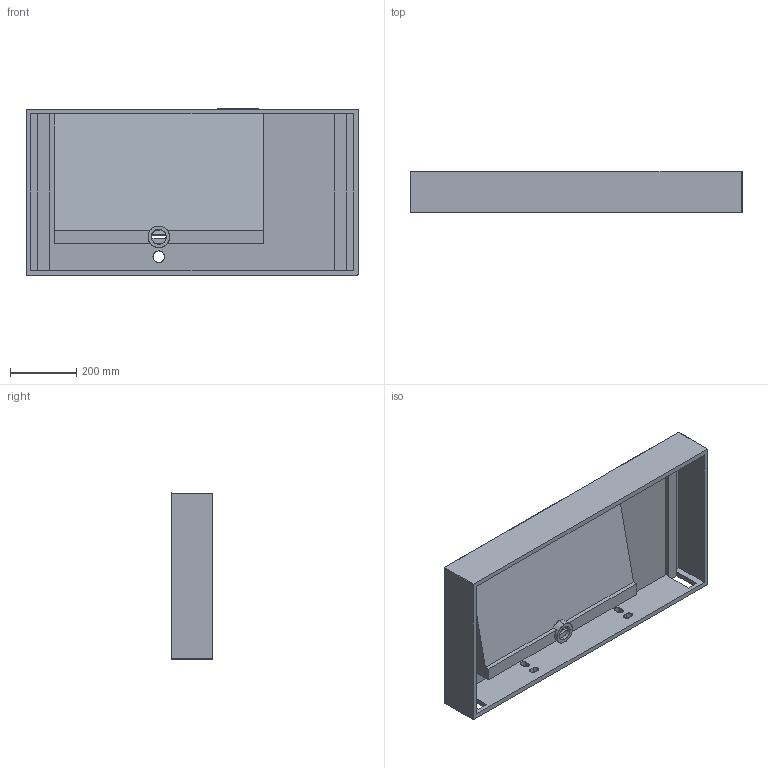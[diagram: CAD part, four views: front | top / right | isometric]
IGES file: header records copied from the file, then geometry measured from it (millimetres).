
Start section: SolidWorks IGES file using analytic representation for surfaces
Global section: file name: C:\Users\Administrator\Desktop\pw12Åè.IGS; native system: SolidWorks 2010; preprocessor: SolidWorks 2010; author: Administrator; date: 110317.221100; units: millimetre
Bounding box: 1000 x 125 x 500 mm (x, y, z)
Surface area: 1909892.2 mm2 (no closed solid volume)
Topology: 0 solids, 0 shells, 125 faces, 1309 edges, 1297 vertices
Faces by surface type: bspline 71, revolution 54
